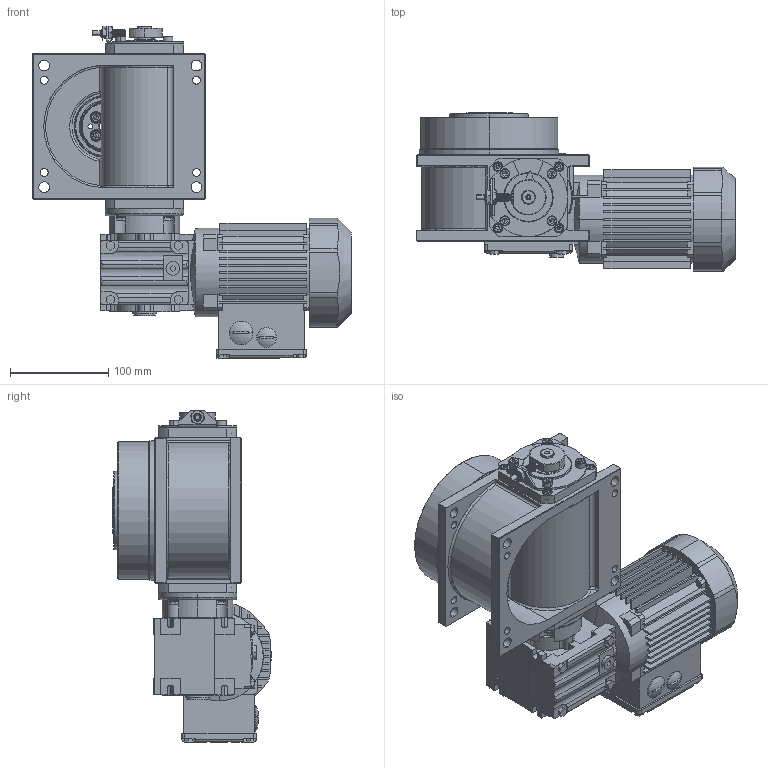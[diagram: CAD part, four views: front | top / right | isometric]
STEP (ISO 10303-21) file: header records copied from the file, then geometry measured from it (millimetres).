
FILE_DESCRIPTION (( 'STEP AP214' ), '1' );
FILE_NAME ('M140_SEW_WAF10DR2S56M4_D3.STEP', '2021-01-22T15:34:47', ( '' ), ( '' ), 'SwSTEP 2.0', 'SolidWorks 2020', '' );
FILE_SCHEMA (( 'AUTOMOTIVE_DESIGN' ));
Length unit declared in the file: millimetre
Products named in the file (1): M140_SEW_WAF10DR2S56M4_D3
Bounding box: 325 x 161.14 x 338.29 mm (x, y, z)
Surface area: 379985 mm2 (no closed solid volume)
Topology: 0 solids, 51 shells, 1333 faces, 4214 edges, 2812 vertices
Faces by surface type: plane 713, cylinder 414, cone 102, bspline 52, torus 48, sphere 4
Entity records: 67856 total; most frequent: CARTESIAN_POINT 16492, DIRECTION 7547, ORIENTED_EDGE 7300, EDGE_CURVE 4186, VERTEX_POINT 2812, AXIS2_PLACEMENT_3D 2527, LINE 2493, VECTOR 2493
